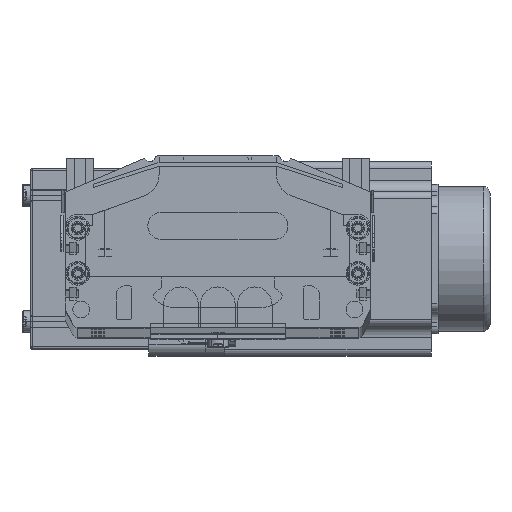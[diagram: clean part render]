
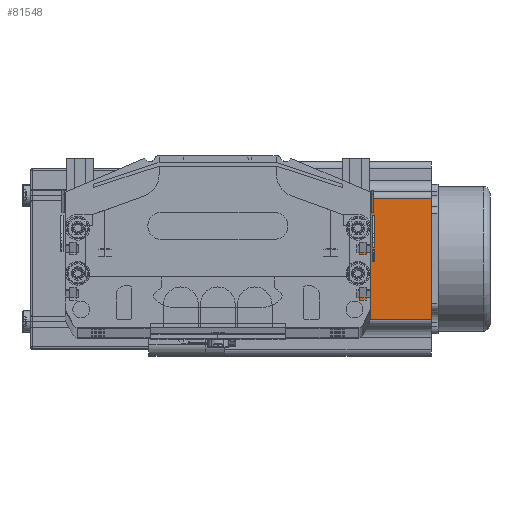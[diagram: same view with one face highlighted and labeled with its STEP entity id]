
A CAD part, top view. The second image highlights one B-rep face of the part: STEP entity #81548.
In plain terms, the highlighted planar face has unit normal (0, 0, 1) as drawn and (-1, 0, 0) by its records, which use the part's own axes.
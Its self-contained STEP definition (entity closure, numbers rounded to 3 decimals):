
#16358 = DIRECTION ( 'NONE',  ( 0., -1., 0. ) ) ;
#16359 = VECTOR ( 'NONE', #16358, 1000. ) ;
#16360 = CARTESIAN_POINT ( 'NONE',  ( 0., 0., 91.5 ) ) ;
#16362 = LINE ( 'NONE', #16360, #16359 ) ;
#16588 = DIRECTION ( 'NONE',  ( 0., 0., -1. ) ) ;
#16623 = VECTOR ( 'NONE', #16588, 1000. ) ;
#16625 = CARTESIAN_POINT ( 'NONE',  ( 0., 69.74, 91.5 ) ) ;
#16629 = DIRECTION ( 'NONE',  ( 0., 0., -1. ) ) ;
#16632 = DIRECTION ( 'NONE',  ( 1., 0., 0. ) ) ;
#16633 = CARTESIAN_POINT ( 'NONE',  ( 0., 0., 91.5 ) ) ;
#16634 = AXIS2_PLACEMENT_3D ( 'NONE', #16633, #16632, #16629 ) ;
#16635 = PLANE ( 'NONE',  #16634 ) ;
#16639 = LINE ( 'NONE', #16625, #16623 ) ;
#16644 = FACE_OUTER_BOUND ( 'NONE', #81767, .T. ) ;
#17667 = LINE ( 'NONE', #17737, #17736 ) ;
#17682 = LINE ( 'NONE', #17685, #17684 ) ;
#17683 = DIRECTION ( 'NONE',  ( 0., 0., 1. ) ) ;
#17684 = VECTOR ( 'NONE', #17683, 1000. ) ;
#17685 = CARTESIAN_POINT ( 'NONE',  ( 0., 16.16, 91.5 ) ) ;
#17732 = CARTESIAN_POINT ( 'NONE',  ( 0., 69.74, 0. ) ) ;
#17735 = DIRECTION ( 'NONE',  ( 0., -1., 0. ) ) ;
#17736 = VECTOR ( 'NONE', #17735, 1000. ) ;
#17737 = CARTESIAN_POINT ( 'NONE',  ( 0., 0., 0. ) ) ;
#17769 = CARTESIAN_POINT ( 'NONE',  ( 0., 69.74, 91.5 ) ) ;
#17771 = CARTESIAN_POINT ( 'NONE',  ( 0., 16.16, 0. ) ) ;
#17780 = CARTESIAN_POINT ( 'NONE',  ( 0., 16.16, 91.5 ) ) ;
#81472 = EDGE_CURVE ( 'NONE', #81770, #81766, #16362, .T. ) ;
#81548 = ADVANCED_FACE ( 'NONE', ( #16644 ), #16635, .F. ) ;
#81555 = ORIENTED_EDGE ( 'NONE', *, *, #81562, .T. ) ;
#81557 = ORIENTED_EDGE ( 'NONE', *, *, #81765, .T. ) ;
#81562 = EDGE_CURVE ( 'NONE', #81770, #81754, #16639, .T. ) ;
#81732 = EDGE_CURVE ( 'NONE', #81754, #81755, #17667, .T. ) ;
#81752 = ORIENTED_EDGE ( 'NONE', *, *, #81472, .F. ) ;
#81753 = ORIENTED_EDGE ( 'NONE', *, *, #81732, .T. ) ;
#81754 = VERTEX_POINT ( 'NONE', #17732 ) ;
#81755 = VERTEX_POINT ( 'NONE', #17771 ) ;
#81765 = EDGE_CURVE ( 'NONE', #81755, #81766, #17682, .T. ) ;
#81766 = VERTEX_POINT ( 'NONE', #17780 ) ;
#81767 = EDGE_LOOP ( 'NONE', ( #81753, #81557, #81752, #81555 ) ) ;
#81770 = VERTEX_POINT ( 'NONE', #17769 ) ;
